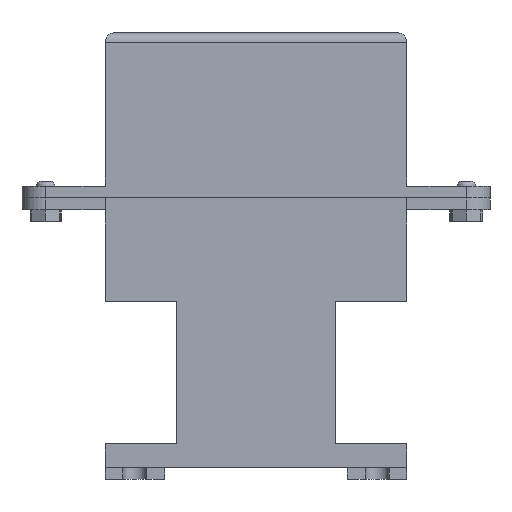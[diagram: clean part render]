
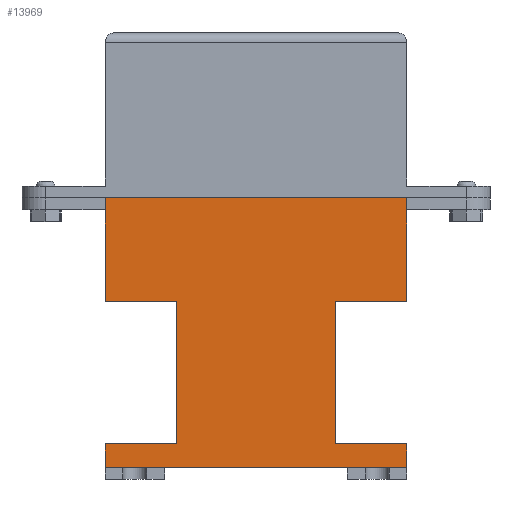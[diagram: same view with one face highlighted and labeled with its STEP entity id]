
A CAD part, left-side view. The second image highlights one B-rep face of the part: STEP entity #13969.
In plain terms, the highlighted planar face has unit normal (-1, 0, 0).
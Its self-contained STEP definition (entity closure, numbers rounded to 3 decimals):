
#1417=FACE_OUTER_BOUND('',#2209,.T.);
#2209=EDGE_LOOP('',(#11803,#11804,#11805,#11806,#11807,#11808,#11809,#11810,
#11811,#11812,#11813,#11814));
#3434=LINE('',#23742,#4926);
#3449=LINE('',#23778,#4941);
#3455=LINE('',#23790,#4947);
#3465=LINE('',#23806,#4957);
#3470=LINE('',#23817,#4962);
#3473=LINE('',#23822,#4965);
#3507=LINE('',#23905,#4999);
#3508=LINE('',#23908,#5000);
#3510=LINE('',#23911,#5002);
#3511=LINE('',#23913,#5003);
#3513=LINE('',#23917,#5005);
#3514=LINE('',#23919,#5006);
#4926=VECTOR('',#16645,10.);
#4941=VECTOR('',#16670,10.);
#4947=VECTOR('',#16680,10.);
#4957=VECTOR('',#16692,10.);
#4962=VECTOR('',#16701,10.);
#4965=VECTOR('',#16706,10.);
#4999=VECTOR('',#16802,10.);
#5000=VECTOR('',#16805,10.);
#5002=VECTOR('',#16809,10.);
#5003=VECTOR('',#16812,10.);
#5005=VECTOR('',#16816,10.);
#5006=VECTOR('',#16819,10.);
#6379=VERTEX_POINT('',#23739);
#6380=VERTEX_POINT('',#23741);
#6395=VERTEX_POINT('',#23775);
#6396=VERTEX_POINT('',#23777);
#6399=VERTEX_POINT('',#23787);
#6400=VERTEX_POINT('',#23789);
#6408=VERTEX_POINT('',#23814);
#6409=VERTEX_POINT('',#23816);
#6410=VERTEX_POINT('',#23820);
#6428=VERTEX_POINT('',#23903);
#6429=VERTEX_POINT('',#23907);
#6430=VERTEX_POINT('',#23915);
#8205=EDGE_CURVE('',#6380,#6379,#3434,.T.);
#8223=EDGE_CURVE('',#6396,#6395,#3449,.T.);
#8229=EDGE_CURVE('',#6400,#6399,#3455,.T.);
#8239=EDGE_CURVE('',#6380,#6399,#3465,.T.);
#8244=EDGE_CURVE('',#6408,#6409,#3470,.T.);
#8247=EDGE_CURVE('',#6408,#6410,#3473,.T.);
#8287=EDGE_CURVE('',#6379,#6428,#3507,.T.);
#8288=EDGE_CURVE('',#6429,#6396,#3508,.T.);
#8290=EDGE_CURVE('',#6428,#6429,#3510,.T.);
#8291=EDGE_CURVE('',#6410,#6400,#3511,.T.);
#8293=EDGE_CURVE('',#6395,#6430,#3513,.T.);
#8294=EDGE_CURVE('',#6409,#6430,#3514,.T.);
#11803=ORIENTED_EDGE('',*,*,#8290,.T.);
#11804=ORIENTED_EDGE('',*,*,#8288,.T.);
#11805=ORIENTED_EDGE('',*,*,#8223,.T.);
#11806=ORIENTED_EDGE('',*,*,#8293,.T.);
#11807=ORIENTED_EDGE('',*,*,#8294,.F.);
#11808=ORIENTED_EDGE('',*,*,#8244,.F.);
#11809=ORIENTED_EDGE('',*,*,#8247,.T.);
#11810=ORIENTED_EDGE('',*,*,#8291,.T.);
#11811=ORIENTED_EDGE('',*,*,#8229,.T.);
#11812=ORIENTED_EDGE('',*,*,#8239,.F.);
#11813=ORIENTED_EDGE('',*,*,#8205,.T.);
#11814=ORIENTED_EDGE('',*,*,#8287,.T.);
#13181=PLANE('',#14630);
#13969=ADVANCED_FACE('',(#1417),#13181,.T.);
#14630=AXIS2_PLACEMENT_3D('',#23918,#16817,#16818);
#16645=DIRECTION('',(0.,1.,0.));
#16670=DIRECTION('',(0.,1.,0.));
#16680=DIRECTION('',(0.,-1.,0.));
#16692=DIRECTION('',(0.,0.,-1.));
#16701=DIRECTION('',(0.,0.,-1.));
#16706=DIRECTION('',(0.,1.,0.));
#16802=DIRECTION('',(0.,0.,-1.));
#16805=DIRECTION('',(0.,0.,-1.));
#16809=DIRECTION('',(0.,-1.,0.));
#16812=DIRECTION('',(0.,0.,1.));
#16816=DIRECTION('',(0.,0.,-1.));
#16817=DIRECTION('center_axis',(-1.,0.,0.));
#16818=DIRECTION('ref_axis',(0.,1.,0.));
#16819=DIRECTION('',(0.,1.,0.));
#23739=CARTESIAN_POINT('',(-10.,127.,0.));
#23741=CARTESIAN_POINT('',(-10.,0.,0.));
#23742=CARTESIAN_POINT('',(-10.,0.,0.));
#23775=CARTESIAN_POINT('',(-10.,127.,-103.5));
#23777=CARTESIAN_POINT('',(-10.,97.,-103.5));
#23778=CARTESIAN_POINT('',(-10.,48.5,-103.5));
#23787=CARTESIAN_POINT('',(-10.,0.,-43.5));
#23789=CARTESIAN_POINT('',(-10.,30.,-43.5));
#23790=CARTESIAN_POINT('',(-10.,15.,-43.5));
#23806=CARTESIAN_POINT('',(-10.,0.,0.));
#23814=CARTESIAN_POINT('',(-10.,0.,-103.5));
#23816=CARTESIAN_POINT('',(-10.,0.,-113.5));
#23817=CARTESIAN_POINT('',(-10.,0.,0.));
#23820=CARTESIAN_POINT('',(-10.,30.,-103.5));
#23822=CARTESIAN_POINT('',(-10.,0.,-103.5));
#23903=CARTESIAN_POINT('',(-10.,127.,-43.5));
#23905=CARTESIAN_POINT('',(-10.,127.,0.));
#23907=CARTESIAN_POINT('',(-10.,97.,-43.5));
#23908=CARTESIAN_POINT('',(-10.,97.,-21.75));
#23911=CARTESIAN_POINT('',(-10.,63.5,-43.5));
#23913=CARTESIAN_POINT('',(-10.,30.,-51.75));
#23915=CARTESIAN_POINT('',(-10.,127.,-113.5));
#23917=CARTESIAN_POINT('',(-10.,127.,0.));
#23918=CARTESIAN_POINT('Origin',(-10.,0.,0.));
#23919=CARTESIAN_POINT('',(-10.,0.,-113.5));
